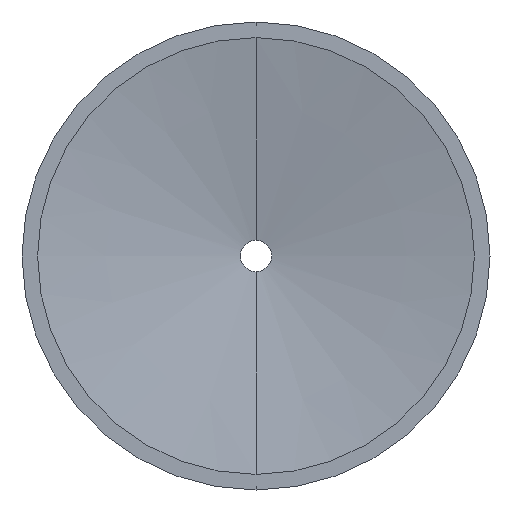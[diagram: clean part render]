
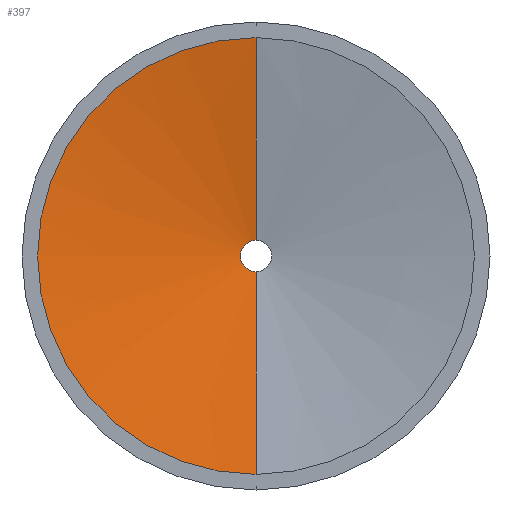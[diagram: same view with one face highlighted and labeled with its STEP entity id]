
A CAD part, front view. The second image highlights one B-rep face of the part: STEP entity #397.
In plain terms, the highlighted conical face has half-angle 80 degrees and reference radius 1 mm.
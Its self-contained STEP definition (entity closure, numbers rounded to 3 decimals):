
#17 = VERTEX_POINT ( 'NONE', #519 ) ;
#19 = VECTOR ( 'NONE', #402, 1000. ) ;
#21 = EDGE_CURVE ( 'NONE', #580, #463, #307, .T. ) ;
#39 = CARTESIAN_POINT ( 'NONE',  ( 0., 0., 0. ) ) ;
#57 = EDGE_LOOP ( 'NONE', ( #337, #227, #125, #572 ) ) ;
#62 = CARTESIAN_POINT ( 'NONE',  ( 0., 2.292, 0. ) ) ;
#68 = VECTOR ( 'NONE', #160, 1000. ) ;
#81 = DIRECTION ( 'NONE',  ( 0., 0., -1. ) ) ;
#89 = CARTESIAN_POINT ( 'NONE',  ( 0., 2.292, 1. ) ) ;
#100 = CARTESIAN_POINT ( 'NONE',  ( 0., 2.292, -1. ) ) ;
#105 = DIRECTION ( 'NONE',  ( 0., 0., -1. ) ) ;
#125 = ORIENTED_EDGE ( 'NONE', *, *, #360, .F. ) ;
#160 = DIRECTION ( 'NONE',  ( 0., -0.174, 0.985 ) ) ;
#178 = CONICAL_SURFACE ( 'NONE', #562, 1., 1.396 ) ;
#186 = CIRCLE ( 'NONE', #504, 1. ) ;
#227 = ORIENTED_EDGE ( 'NONE', *, *, #294, .T. ) ;
#274 = LINE ( 'NONE', #376, #68 ) ;
#288 = CARTESIAN_POINT ( 'NONE',  ( 0., 2.292, 0. ) ) ;
#292 = DIRECTION ( 'NONE',  ( 0., 1., 0. ) ) ;
#294 = EDGE_CURVE ( 'NONE', #328, #17, #274, .T. ) ;
#307 = LINE ( 'NONE', #355, #19 ) ;
#315 = DIRECTION ( 'NONE',  ( 0., -1., 0. ) ) ;
#328 = VERTEX_POINT ( 'NONE', #89 ) ;
#337 = ORIENTED_EDGE ( 'NONE', *, *, #577, .F. ) ;
#355 = CARTESIAN_POINT ( 'NONE',  ( 0., 2.292, -1. ) ) ;
#360 = EDGE_CURVE ( 'NONE', #463, #17, #506, .T. ) ;
#372 = AXIS2_PLACEMENT_3D ( 'NONE', #39, #292, #575 ) ;
#376 = CARTESIAN_POINT ( 'NONE',  ( 0., 2.292, 1. ) ) ;
#397 = ADVANCED_FACE ( 'NONE', ( #458 ), #178, .F. ) ;
#402 = DIRECTION ( 'NONE',  ( 0., -0.174, -0.985 ) ) ;
#458 = FACE_OUTER_BOUND ( 'NONE', #57, .T. ) ;
#463 = VERTEX_POINT ( 'NONE', #476 ) ;
#476 = CARTESIAN_POINT ( 'NONE',  ( 0., 0., -14. ) ) ;
#504 = AXIS2_PLACEMENT_3D ( 'NONE', #62, #315, #105 ) ;
#506 = CIRCLE ( 'NONE', #372, 14. ) ;
#519 = CARTESIAN_POINT ( 'NONE',  ( 0., 0., 14. ) ) ;
#521 = DIRECTION ( 'NONE',  ( 0., -1., 0. ) ) ;
#562 = AXIS2_PLACEMENT_3D ( 'NONE', #288, #521, #81 ) ;
#572 = ORIENTED_EDGE ( 'NONE', *, *, #21, .F. ) ;
#575 = DIRECTION ( 'NONE',  ( 0., 0., -1. ) ) ;
#577 = EDGE_CURVE ( 'NONE', #328, #580, #186, .T. ) ;
#580 = VERTEX_POINT ( 'NONE', #100 ) ;
